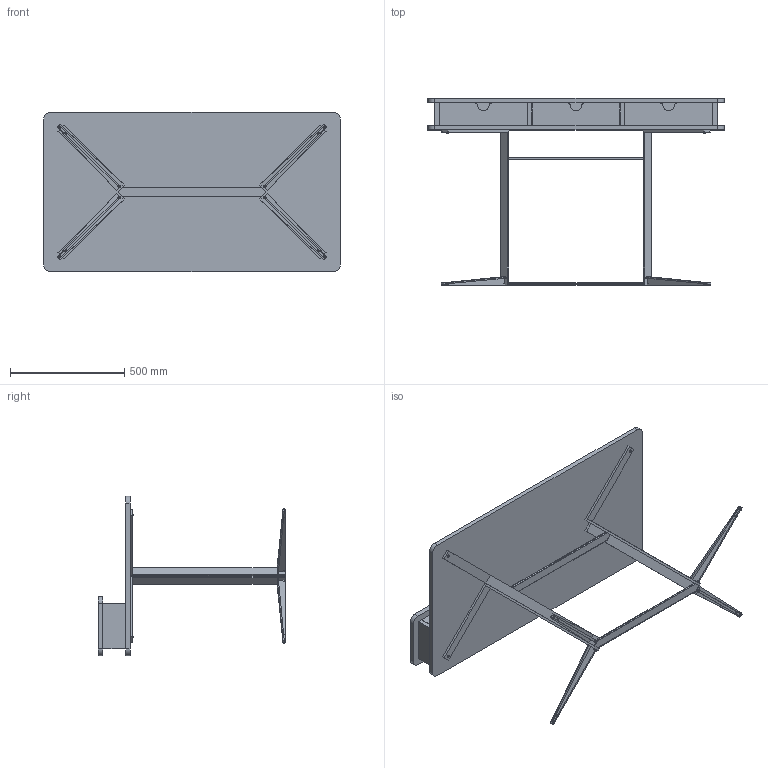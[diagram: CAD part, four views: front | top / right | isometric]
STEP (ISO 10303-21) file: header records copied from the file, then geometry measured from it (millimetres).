
FILE_DESCRIPTION (( 'STEP AP214' ), '1' );
FILE_NAME ('NELSON HOME OFFICE.STEP', '2022-11-11T17:04:49', ( '' ), ( '' ), 'SwSTEP 2.0', 'SolidWorks 2022', '' );
FILE_SCHEMA (( 'AUTOMOTIVE_DESIGN' ));
Length unit declared in the file: millimetre
Products named in the file (9): Cassetto scrittoio&vanity; TELAIO GAMBE H-O&VANITY; Paracolpo a fungo testa bombata; BUSSOLA ZAMA M6; Vite TBEI M6x16; Scrittoio Gamba con piede; Tubo traverso gambe; Piano & rialzo+3cassetti; NELSON HOME OFFICE
Assembly tree (27 placements, depth 3):
  NELSON HOME OFFICE
    TELAIO GAMBE H-O&VANITY
      Scrittoio Gamba con piede  x4
      Tubo traverso gambe  x2
      Paracolpo a fungo testa bombata  x8
    Piano & rialzo+3cassetti
    Cassetto scrittoio&vanity  x3
    BUSSOLA ZAMA M6  x4
    Vite TBEI M6x16  x4
Bounding box: 1300 x 823 x 700 mm (x, y, z)
Volume: 36000037.5 mm3; surface area: 5078203.3 mm2
Topology: 70 solids, 70 shells, 841 faces, 1928 edges, 1244 vertices
Faces by surface type: plane 456, cylinder 265, cone 60, torus 48, bspline 12
Entity records: 11124 total; most frequent: CARTESIAN_POINT 4011, DIRECTION 1375, ORIENTED_EDGE 1306, EDGE_CURVE 653, AXIS2_PLACEMENT_3D 486, VERTEX_POINT 425, VECTOR 403, LINE 403
